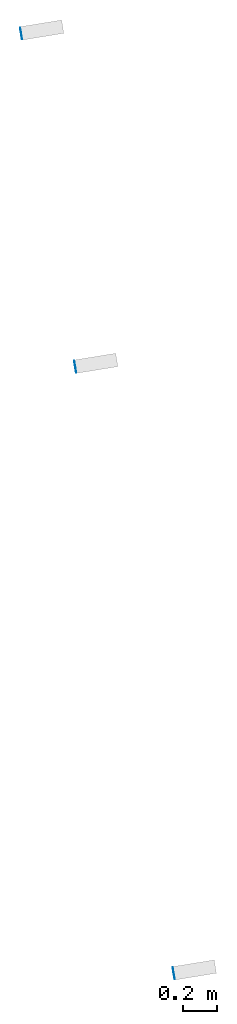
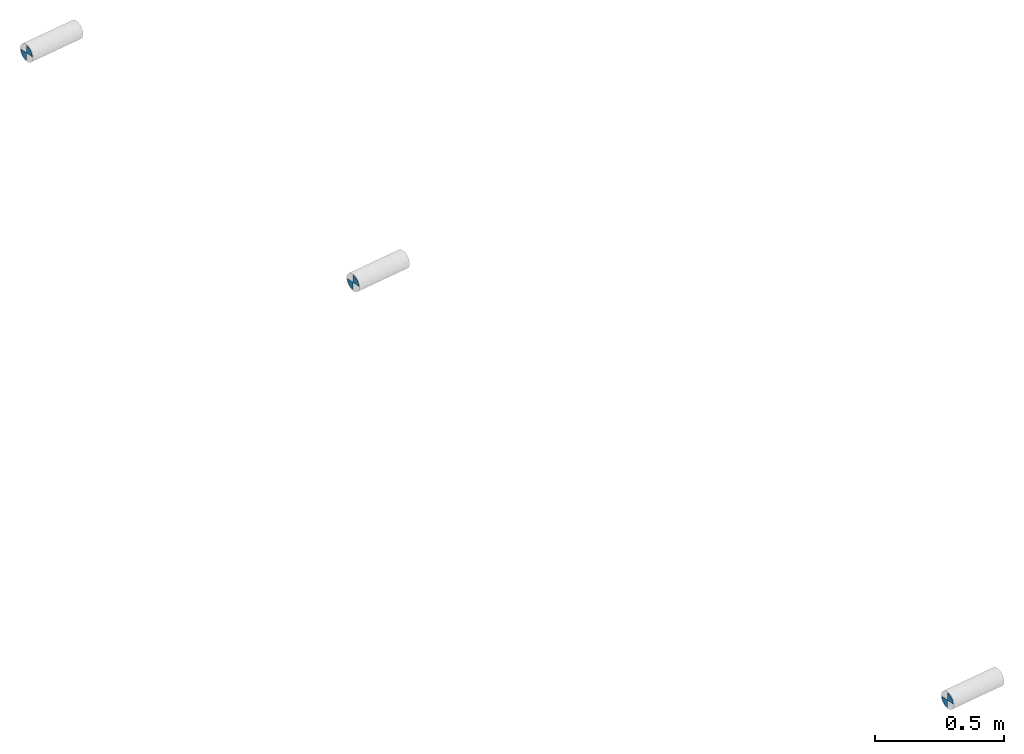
# One storey, part 1 of 2: 3 slabs.
"""IFC2X3 building model written with IfcOpenShell, lengths in millimetres."""

from ifc_helpers import new_model, entity, si_unit, converted_unit, derived_unit, direction, frame, frame_2d, origin, origin_with_axes, place, context, subcontext, project, spatial, polyline, circle_curve, parameter, trimmed, segment, composite_curve, outline, extrude, material, type_object, element, save


model = new_model("IFC2X3")

# Units and contexts
plan_context = context("Plan", 3, precision=1e-05, world=origin_with_axes())
model_context = context("Model", 3, precision=0.01, world=origin(), true_north=direction((6.12323399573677e-17, 1.0)))
body_context = subcontext(model_context, "Body", "Model", "MODEL_VIEW")
ifc_project = project(units=[converted_unit("PLANEANGLEUNIT", "DEGREE", entity("IfcPositiveLengthMeasure", 0.0174532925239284), si_unit("PLANEANGLEUNIT", "RADIAN"), dimensions=[0, 0, 0, 0, 0, 0, 0]), si_unit("AREAUNIT", "SQUARE_METRE"), si_unit("LENGTHUNIT", "METRE", prefix="MILLI"), si_unit("MASSUNIT", "GRAM", prefix="KILO"), si_unit("POWERUNIT", "WATT"), si_unit("PRESSUREUNIT", "PASCAL", prefix="KILO"), si_unit("FORCEUNIT", "NEWTON", prefix="KILO"), si_unit("ELECTRICVOLTAGEUNIT", "VOLT"), si_unit("ELECTRICCURRENTUNIT", "AMPERE"), si_unit("THERMODYNAMICTEMPERATUREUNIT", "DEGREE_CELSIUS"), si_unit("TIMEUNIT", "SECOND"), si_unit("VOLUMEUNIT", "CUBIC_METRE"), derived_unit("LINEARVELOCITYUNIT", [(si_unit("LENGTHUNIT", "METRE"), 1), (si_unit("TIMEUNIT", "SECOND"), -1)]), derived_unit("VOLUMETRICFLOWRATEUNIT", [(si_unit("VOLUMEUNIT", "CUBIC_METRE"), 1), (si_unit("TIMEUNIT", "SECOND"), -1)]), derived_unit("THERMALTRANSMITTANCEUNIT", [(si_unit("POWERUNIT", "WATT"), 1), (si_unit("THERMODYNAMICTEMPERATUREUNIT", "KELVIN"), -1), (si_unit("AREAUNIT", "SQUARE_METRE"), -1)]), derived_unit("SOUNDPRESSUREUNIT", [(si_unit("PRESSUREUNIT", "PASCAL"), 1)])], contexts=[model_context, plan_context])

# Site, building, storey
site_placement = place(None, frame((-0.00071070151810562, 0.00438415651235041, 0.0), z_axis=(0.0, 0.0, 1.0), x_axis=(-0.160236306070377, 0.987078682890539, 0.0)))
site = spatial("IfcSite", under=ifc_project, at=site_placement, Name="Default", CompositionType="ELEMENT")
building_placement = place(site_placement, origin_with_axes())
building = spatial("IfcBuilding", under=site, at=building_placement, CompositionType="ELEMENT")
storey_placement = place(building_placement, frame((0.0, 0.0, 44699.9999999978), z_axis=(0.0, 0.0, 1.0), x_axis=(1.0, 0.0, 0.0)))
storey = spatial("IfcBuildingStorey", under=building, at=storey_placement, Name="Nivå B", CompositionType="ELEMENT", Elevation=44699.9999999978)

# Slabs
ifc_material = material(Name="Black")
slab_type = type_object("IfcSlabType", Name="SurveyMarker:Custom", PredefinedType="BASESLAB", material=ifc_material)
slab_1_placement = place(storey_placement, origin_with_axes())
element("IfcSlab", 1, at=slab_1_placement, inside=storey, type_object=slab_type, Name="SurveyMarker:Custom", ObjectType="SurveyMarker:Custom", PredefinedType="BASESLAB", context=body_context, shape_type="SweptSolid", body=[
    extrude(outline(composite_curve([segment(polyline([(-11.6666666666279, -11.6666666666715), (23.3333333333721, -11.6666666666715)]), True, "CONTINUOUS"), segment(trimmed(circle_curve(frame_2d((-11.6666666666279, -11.6666666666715), x_axis=(1.0, 0.0)), 35.0), [parameter(5.08888749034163e-13)], [parameter(90.0000000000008)], True, "PARAMETER"), True, "CONTINUOUS"), segment(polyline([(-11.6666666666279, 23.3333333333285), (-11.6666666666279, -11.6666666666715)]), True, "CONTINUOUS")], self_intersect=False)), frame((764362.419216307, -504893.280498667, 13418.3333333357), z_axis=(0.0, 1.0, 0.0), x_axis=(1.0, 0.0, 0.0)), (0.0, 0.0, 1.0), 0.799999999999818),
    extrude(outline(composite_curve([segment(polyline([(-11.6666666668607, -11.6666666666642), (23.3333333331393, -11.6666666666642)]), True, "CONTINUOUS"), segment(trimmed(circle_curve(frame_2d((-11.6666666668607, -11.6666666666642), x_axis=(1.0, 0.0)), 35.0), [parameter(5.08888749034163e-13)], [parameter(90.0000000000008)], True, "PARAMETER"), True, "CONTINUOUS"), segment(polyline([(-11.6666666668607, 23.3333333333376), (-11.6666666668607, -11.6666666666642)]), True, "CONTINUOUS")], self_intersect=False)), frame((764339.085882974, -504893.280498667, 13441.6666666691), z_axis=(0.0, 1.0, 0.0), x_axis=(-1.0, 0.0, 0.0)), (0.0, 0.0, 1.0), 0.799999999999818),
])
slab_2_placement = place(storey_placement, origin_with_axes())
element("IfcSlab", 2, at=slab_2_placement, inside=storey, type_object=slab_type, Name="SurveyMarker:Custom", ObjectType="SurveyMarker:Custom", PredefinedType="BASESLAB", context=body_context, shape_type="SweptSolid", body=[
    extrude(outline(composite_curve([segment(polyline([(-11.6666666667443, -11.6666666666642), (23.3333333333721, -11.6666666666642)]), True, "CONTINUOUS"), segment(trimmed(circle_curve(frame_2d((-11.6666666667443, -11.6666666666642), x_axis=(1.0, 0.0)), 35.0), [parameter(5.08888749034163e-13)], [parameter(90.0000000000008)], True, "PARAMETER"), True, "CONTINUOUS"), segment(polyline([(-11.6666666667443, 23.3333333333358), (-11.6666666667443, -11.6666666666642)]), True, "CONTINUOUS")], self_intersect=False)), frame((768002.863261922, -504893.280498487, 13418.3333333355), z_axis=(0.0, 1.0, 0.0), x_axis=(1.0, 0.0, 0.0)), (0.0, 0.0, 1.0), 0.799999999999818),
    extrude(outline(composite_curve([segment(polyline([(-11.6666666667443, -11.6666666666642), (23.3333333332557, -11.6666666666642)]), True, "CONTINUOUS"), segment(trimmed(circle_curve(frame_2d((-11.6666666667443, -11.6666666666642), x_axis=(1.0, 0.0)), 35.0), [parameter(5.08888749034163e-13)], [parameter(90.0000000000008)], True, "PARAMETER"), True, "CONTINUOUS"), segment(polyline([(-11.6666666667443, 23.3333333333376), (-11.6666666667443, -11.6666666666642)]), True, "CONTINUOUS")], self_intersect=False)), frame((767979.529928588, -504893.280498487, 13441.6666666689), z_axis=(0.0, 1.0, 0.0), x_axis=(-1.0, 0.0, 0.0)), (0.0, 0.0, 1.0), 0.799999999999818),
])
slab_3_placement = place(storey_placement, origin_with_axes())
element("IfcSlab", 3, at=slab_3_placement, inside=storey, type_object=slab_type, Name="SurveyMarker:Custom", ObjectType="SurveyMarker:Custom", PredefinedType="BASESLAB", context=body_context, shape_type="SweptSolid", body=[
    extrude(outline(composite_curve([segment(polyline([(-11.6666666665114, -11.6666666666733), (23.3333333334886, -11.6666666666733)]), True, "CONTINUOUS"), segment(trimmed(circle_curve(frame_2d((-11.6666666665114, -11.6666666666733), x_axis=(1.0, 0.0)), 35.0), [parameter(5.08888749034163e-13)], [parameter(90.0000000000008)], True, "PARAMETER"), True, "CONTINUOUS"), segment(polyline([(-11.6666666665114, 23.3333333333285), (-11.6666666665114, -11.6666666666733)]), True, "CONTINUOUS")], self_intersect=False)), frame((770002.863261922, -504893.280498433, 13418.3333333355), z_axis=(0.0, 1.0, 0.0), x_axis=(1.0, 0.0, 0.0)), (0.0, 0.0, 1.0), 0.799999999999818),
    extrude(outline(composite_curve([segment(polyline([(-11.6666666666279, -11.6666666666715), (23.3333333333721, -11.6666666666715)]), True, "CONTINUOUS"), segment(trimmed(circle_curve(frame_2d((-11.6666666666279, -11.6666666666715), x_axis=(1.0, 0.0)), 35.0), [parameter(5.08888749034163e-13)], [parameter(90.0000000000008)], True, "PARAMETER"), True, "CONTINUOUS"), segment(polyline([(-11.6666666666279, 23.3333333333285), (-11.6666666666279, -11.6666666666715)]), True, "CONTINUOUS")], self_intersect=False)), frame((769979.529928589, -504893.280498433, 13441.6666666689), z_axis=(0.0, 1.0, 0.0), x_axis=(-1.0, 0.0, 0.0)), (0.0, 0.0, 1.0), 0.799999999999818),
])

save(model, "model.ifc")
